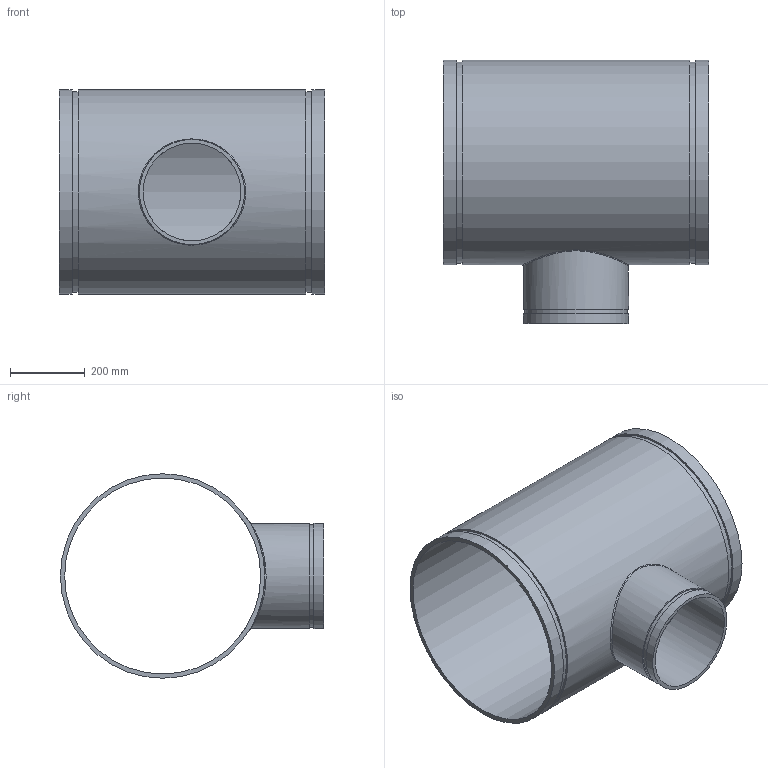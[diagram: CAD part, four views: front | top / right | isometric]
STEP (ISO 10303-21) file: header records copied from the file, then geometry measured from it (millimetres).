
FILE_DESCRIPTION(/* description */ ('VIC REDUCING TEE No 25-C','CAx-IF Rec.Pracs.---Representation and Presentation of Product Manufacturing Information (PMI)---4.0---2014-10-13'),/* implementation_level */ '2;1');
FILE_NAME(/* name */ 'C:\Users\Vjadhav\AppData\Roaming\Autodesk\ApplicationPlugins\Back Up\Victaulic_AWWA_Tee Reducing_No 25-C (DRG)\Victaulic_AWWA_Tee Reducing_No 25-C (DRG)_20.0x10.0 (500x250).stp',/* time_stamp */ '2020-08-18T18:18:39+06:00',/* author */ ('CORINNE GRAY'),/* organization */ ('Victaulic'),/* preprocessor_version */ 'ST-DEVELOPER v17.2',/* originating_system */ 'Autodesk Inventor 2019',/* authorisation */ '');
FILE_SCHEMA (('AP242_MANAGED_MODEL_BASED_3D_ENGINEERING_MIM_LF { 1 0 10303 442 1 1 4 }'));
Length unit declared in the file: inch
Products named in the file (1): 25C-20.0x10.0
Bounding box: 711.2 x 706.12 x 548.64 mm (x, y, z)
Volume: 14225472.4 mm3; surface area: 2674158.7 mm2
Topology: 1 solids, 1 shells, 20 faces, 44 edges, 33 vertices
Faces by surface type: cylinder 10, plane 9, bspline 1
Full cylindrical faces by diameter (mm): 262.636 x1, 274.65 x1, 281.94 x2, 525.78 x1, 538.963 x2, 548.64 x3
Entity records: 1080 total; most frequent: CARTESIAN_POINT 456, DIRECTION 135, ORIENTED_EDGE 90, AXIS2_PLACEMENT_3D 62, EDGE_CURVE 45, VERTEX_POINT 34, EDGE_LOOP 31, CIRCLE 29
